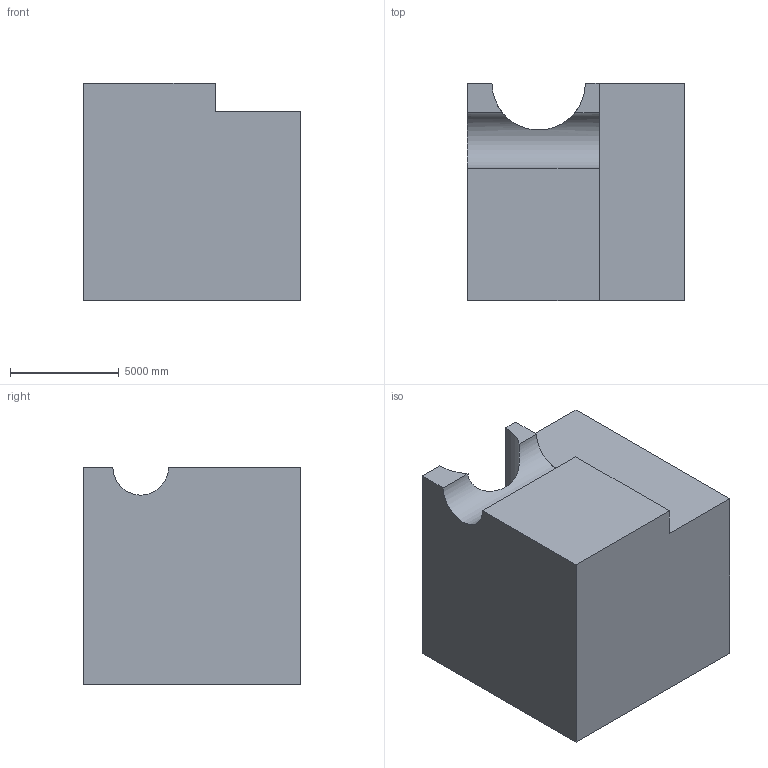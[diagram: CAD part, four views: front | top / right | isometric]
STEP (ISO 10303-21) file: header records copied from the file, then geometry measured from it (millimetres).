
FILE_DESCRIPTION (( 'STEP AP203' ), '1' );
FILE_NAME ('1337.STEP', '2022-08-18T13:51:00', ( 'user' ), ( '' ), 'SwSTEP 2.0', 'SolidWorks 2021', '' );
FILE_SCHEMA (( 'CONFIG_CONTROL_DESIGN' ));
Length unit declared in the file: centimetre
Products named in the file (1): 1337
Bounding box: 10000 x 10000 x 10000 mm (x, y, z)
Volume: 836140988717.8 mm3; surface area: 650655167 mm2
Topology: 1 solids, 1 shells, 17 faces, 45 edges, 30 vertices
Faces by surface type: plane 15, cylinder 2
Entity records: 786 total; most frequent: CARTESIAN_POINT 280, ORIENTED_EDGE 90, DIRECTION 85, EDGE_CURVE 45, VECTOR 39, LINE 39, VERTEX_POINT 30, AXIS2_PLACEMENT_3D 23
